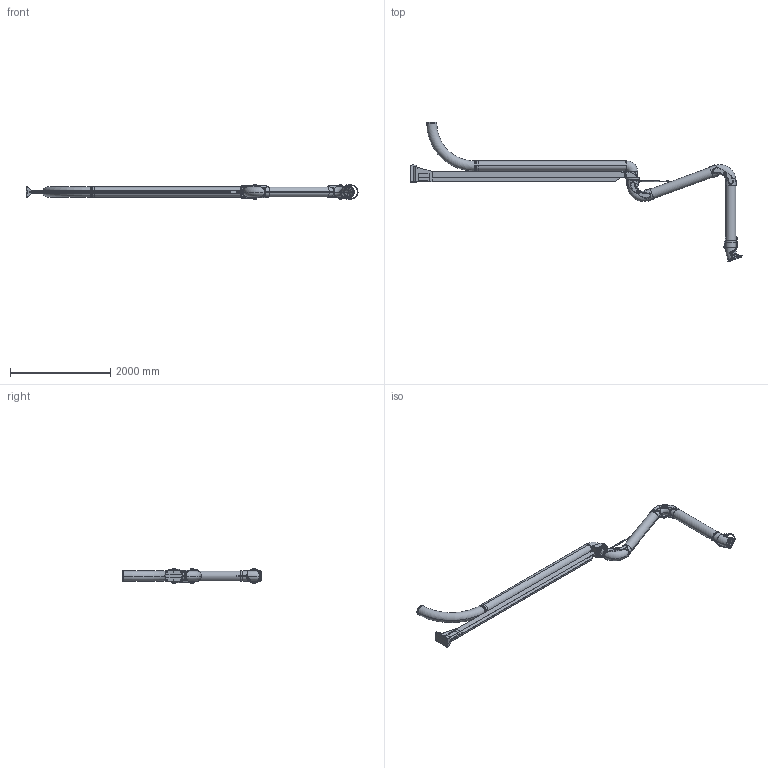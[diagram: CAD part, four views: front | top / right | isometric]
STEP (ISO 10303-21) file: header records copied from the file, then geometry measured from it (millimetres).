
FILE_DESCRIPTION((''),'2;1');
FILE_NAME('138798','2019-03-11T11:42:18',('Gustav Stenberg'),(''),'CREO PARAMETRIC BY PTC INC, 2018260','CREO PARAMETRIC BY PTC INC, 2018260','');
FILE_SCHEMA(('AUTOMOTIVE_DESIGN { 1 0 10303 214 1 1 1 1 }'));
Length unit declared in the file: millimetre
Products named in the file (66): 136203; 136645; 136646; 100-6334-01; 100-6336-04; 100-6336-02; 100-6325-05; 100-6325-01; 100-6336; 100-6333-1; 100-6333-2; 100-6308-3; 100-6333; 100-6308-7; 100-6308-05; 100-6308-4; 9908510; 100-6333_RENAME; 138778; LIGHT_SWIVEL_200_AF1; 126195_AF0; G_PRX_SVIVEL_SPRINGMOUNT; 138753_AF0; 124040; 124041; 105-5481_1; 101156_1; 124045_AF6; 124045_AF7; 124045_AF9; 124045_AF8; 124888; 124897; 124867; 125076; 124875; 124954; 126055_AF25; 124967_AF1; 142700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
Assembly tree (84 placements, depth 6):
  138798
    136646
      136203
      136645
    138778
      100-6336
        100-6334-01
        100-6336-04  x2
        100-6336-02
        100-6325-05
        100-6325-01
      100-6333_RENAME
        100-6333
          100-6333-1
          100-6333-2
          100-6308-3
        100-6308-4
          100-6308-7
          100-6308-05
        9908510
    124978_AF0
      138753_AF0
        126195_AF0
          LIGHT_SWIVEL_200_AF1
        G_PRX_SVIVEL_SPRINGMOUNT
      124045_AF6
        124040
        124041
        101156_1
          105-5481_1
      124045_AF7
        124040
        124041
        101156_1
          105-5481_1
      124967_AF1
        124045_AF9
          124040
          124041
          101156_1
            105-5481_1
        124045_AF8
          124040
          124041
          101156_1
            105-5481_1
        124888
        124954
          124897
          124875
            124867
            125076
        126055_AF25
      142482_AF0
        142700  x2
        142474  x2
        142859
          199-808-200
          142440
          142441
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Bounding box: 6637.49 x 2788.29 x 302.11 mm (x, y, z)
Volume: 50445296.6 mm3; surface area: 15821308.5 mm2
Topology: 62 solids, 62 shells, 1504 faces, 3708 edges, 2399 vertices
Faces by surface type: cylinder 582, plane 580, cone 144, bspline 110, torus 64, sphere 24
Entity records: 53634 total; most frequent: CARTESIAN_POINT 13118, DIRECTION 5993, ORIENTED_EDGE 5264, PRESENTATION_STYLE_ASSIGNMENT 2656, STYLED_ITEM 2656, EDGE_CURVE 2632, AXIS2_PLACEMENT_3D 2324, CURVE_STYLE 2009
